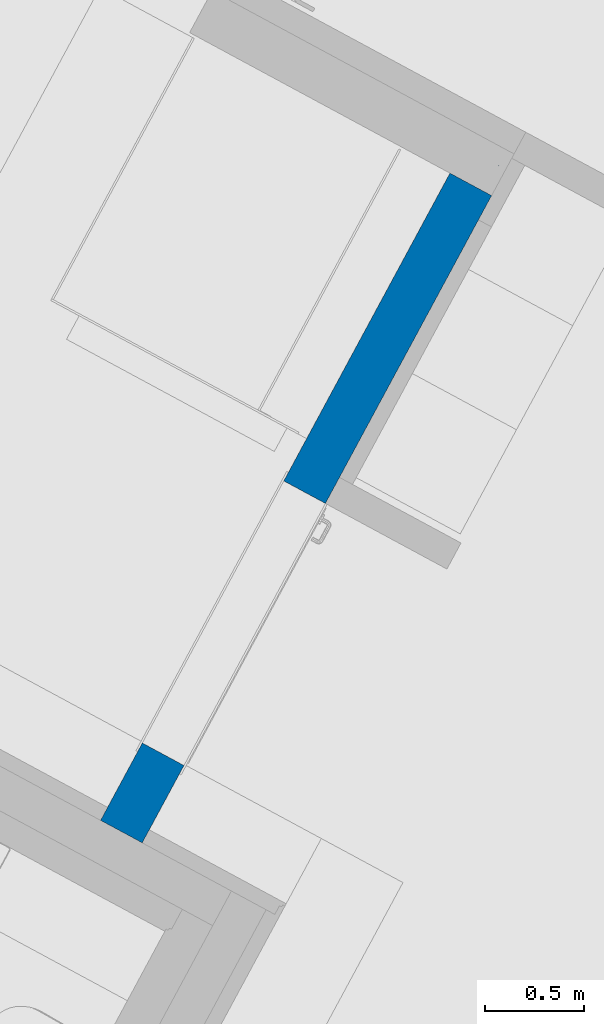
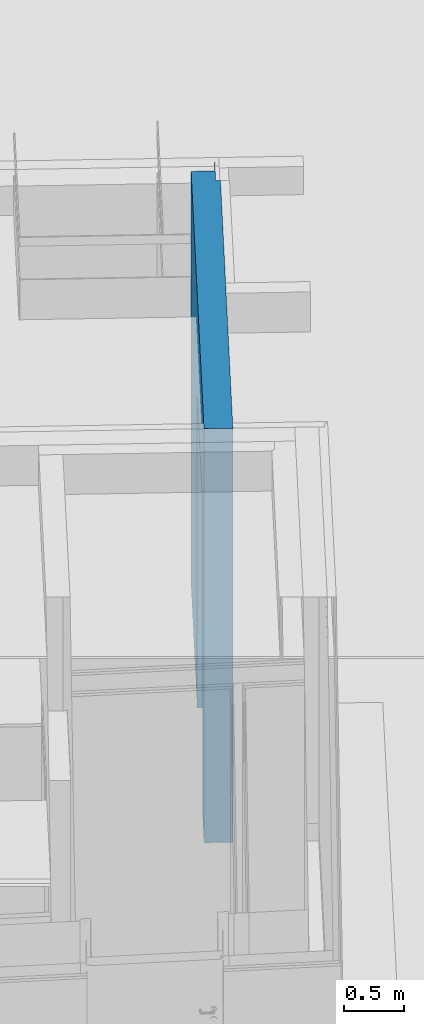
# One storey, part 10 of 52: 1 wall, 1 opening.
"""IFC2X3 building model written with IfcOpenShell, lengths in metres."""

from ifc_helpers import new_model, entity, si_unit, converted_unit, derived_unit, money_unit, direction, frame, origin_with_axes, origin_2d_with_axis, place, context, subcontext, project, spatial, rectangle, extrude, faceted_brep, material, type_object, element, save


model = new_model("IFC2X3")

# Units and contexts
model_context = context("Model", 3, precision=1e-05, world=origin_with_axes(), true_north=direction((0.0, 1.0)))
body_context = subcontext(model_context, "Body", "Model", "MODEL_VIEW")
ifc_project = project(units=[si_unit("LENGTHUNIT", "METRE"), si_unit("AREAUNIT", "SQUARE_METRE"), si_unit("VOLUMEUNIT", "CUBIC_METRE"), converted_unit("PLANEANGLEUNIT", "DEGREE", entity("IfcPlaneAngleMeasure", 0.0174532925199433), si_unit("PLANEANGLEUNIT", "RADIAN"), dimensions=[0, 0, 0, 0, 0, 0, 0]), money_unit("EUR"), converted_unit("TIMEUNIT", "Year", entity("IfcTimeMeasure", 31556926.0), si_unit("TIMEUNIT", "SECOND"), dimensions=[0, 0, 1, 0, 0, 0, 0]), si_unit("MASSUNIT", "GRAM", prefix="KILO"), si_unit("THERMODYNAMICTEMPERATUREUNIT", "DEGREE_CELSIUS"), si_unit("LUMINOUSINTENSITYUNIT", "LUMEN"), si_unit("ENERGYUNIT", "JOULE", prefix="MEGA"), derived_unit("THERMALCONDUCTANCEUNIT", [(si_unit("POWERUNIT", "WATT"), 1), (si_unit("LENGTHUNIT", "METRE"), -1), (si_unit("THERMODYNAMICTEMPERATUREUNIT", "KELVIN"), -1)]), derived_unit("SPECIFICHEATCAPACITYUNIT", [(si_unit("ENERGYUNIT", "JOULE"), 1), (si_unit("MASSUNIT", "GRAM", prefix="KILO"), -1), (si_unit("THERMODYNAMICTEMPERATUREUNIT", "KELVIN"), -1)]), derived_unit("MASSDENSITYUNIT", [(si_unit("MASSUNIT", "GRAM", prefix="KILO"), 1), (si_unit("VOLUMEUNIT", "CUBIC_METRE"), -1)])], contexts=[model_context])

# Site, building, storey
site_placement = place(None, frame((-3.949935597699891, 1.740105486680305, 0.0), z_axis=(0.0, 0.0, 1.0), x_axis=(0.8799804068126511, -0.475009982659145, 0.0)))
site = spatial("IfcSite", under=ifc_project, at=site_placement, Name="Gelände", CompositionType="ELEMENT")
building_placement = place(site_placement, origin_with_axes())
building = spatial("IfcBuilding", under=site, at=building_placement, Name="Gebäude", CompositionType="ELEMENT")
storey_placement = place(building_placement, origin_with_axes())
storey = spatial("IfcBuildingStorey", under=building, at=storey_placement, Name="Erdgeschoss", CompositionType="ELEMENT", Elevation=0.0)

# Wall, opening
ifc_material = material(Name="_SIWH - Beton, Stahlbeton")
wall_type = type_object("IfcWallType", Name="_SIWH - WI | Stb. 24 | 24cm 240", PredefinedType="NOTDEFINED")
wall_placement = place(storey_placement, frame((17.40748824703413, 10.89785301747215, -0.18), z_axis=(0.0, 0.0, 1.0), x_axis=(0.0, -1.0, 0.0)))
wall = element("IfcWall", 1, at=wall_placement, inside=storey, type_object=wall_type, material=ifc_material, Name="I-Wand003", context=body_context, shape_type="Brep", body=[
    faceted_brep([(3.524014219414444, 0.0, 0.18), (3.524014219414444, 0.0, 3.16), (2.014014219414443, 0.0, 3.16), (2.014014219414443, 0.0, 0.18), (2.014014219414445, 0.0, 0.0), (0.2400524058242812, 0.0, 0.0), (0.2400524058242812, 0.0, 4.080000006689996), (0.3800524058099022, 0.0, 4.080000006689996), (0.3800524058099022, 0.0, 4.200000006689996), (3.969799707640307, 0.0, 4.200000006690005), (3.969799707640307, 0.0, 0.0), (3.524014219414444, 0.0, 0.0), (3.524014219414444, -0.2399999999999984, 0.18), (3.524014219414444, -0.240000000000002, 3.16), (2.014014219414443, -0.240000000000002, 3.16), (2.014014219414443, -0.2399999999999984, 0.18), (2.014014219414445, -0.2399999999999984, 0.0), (0.2400524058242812, -0.2399999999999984, 0.0), (0.240053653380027, -0.2399999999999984, 4.080000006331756), (0.240053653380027, -0.04001128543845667, 4.080000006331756), (0.2400536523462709, -0.03997813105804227, 4.080000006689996), (0.3800524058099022, -0.03995492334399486, 4.080000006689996), (0.3800524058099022, -0.03995492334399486, 4.200000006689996), (0.240053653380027, -0.2399999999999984, 4.200000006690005), (3.969799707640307, -0.240000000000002, 4.200000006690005), (0.04005239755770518, -0.04001128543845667, 4.200000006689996), (0.240053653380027, -0.04001128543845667, 4.200000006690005), (3.969799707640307, -0.240000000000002, 0.0), (3.524014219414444, -0.240000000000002, 0.0), (0.04005239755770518, -0.04001128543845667, 4.080000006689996)], [[[0, 1, 2, 3, 4, 5, 6, 7, 8, 9, 10, 11]], [[1, 0, 12, 13]], [[2, 1, 13, 14]], [[3, 2, 14, 15]], [[3, 15, 16, 4]], [[4, 16, 17, 5]], [[5, 17, 18, 19, 20, 6]], [[7, 6, 20, 21]], [[22, 8, 7, 21]], [[23, 24, 9, 8, 22, 25, 26]], [[27, 10, 9, 24]], [[28, 11, 10, 27]], [[12, 0, 11, 28]], [[13, 12, 28, 27, 24, 23, 18, 17, 16, 15, 14]], [[23, 26, 19, 18]], [[19, 29, 20]], [[22, 21, 20, 29, 25]], [[25, 29, 19, 26]]]),
])
opening_placement = place(wall_placement, frame((2.769014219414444, 0.0, 0.18), z_axis=(0.0, 0.0, 1.0), x_axis=(1.0, 0.0, 0.0)))
element("IfcOpeningElement", 2, at=opening_placement, cuts=wall, Name="Tür-017", context=body_context, shape_type="SweptSolid", body=[
    extrude(rectangle(XDim=1.510000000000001, YDim=2.98, at=origin_2d_with_axis()), frame((0.0, 0.2399999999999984, 1.49), z_axis=(0.0, -1.0, 0.0), x_axis=(1.0, 0.0, 0.0)), (0.0, 0.0, 1.0), 0.72),
])

save(model, "model.ifc")
